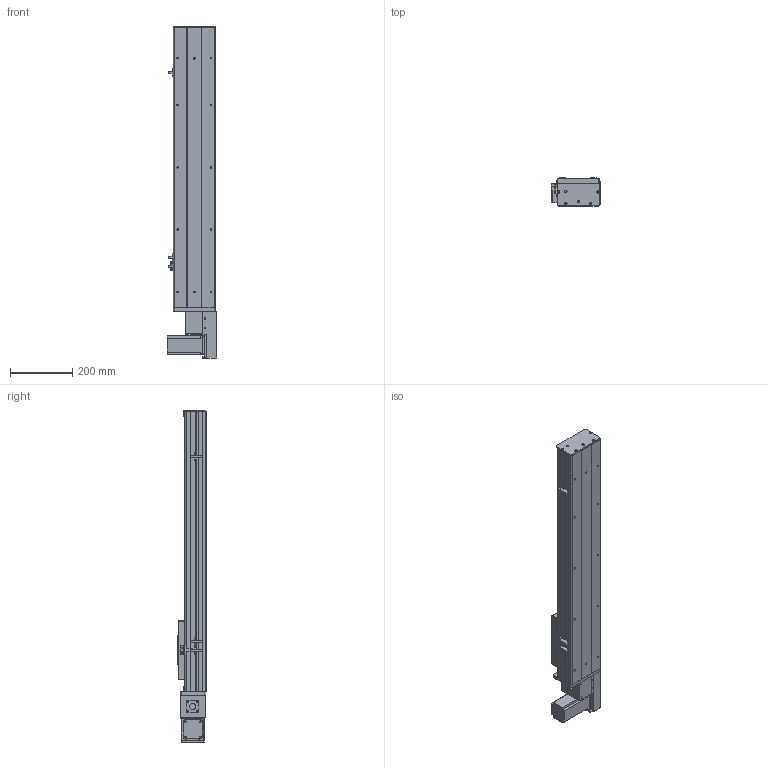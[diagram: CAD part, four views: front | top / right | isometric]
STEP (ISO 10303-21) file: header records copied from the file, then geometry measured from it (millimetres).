
FILE_DESCRIPTION (( 'STEP AP203' ), '1' );
FILE_NAME ('Y135CB-D90-S600-BL-P400W.STEP', '2020-02-17T08:30:18', ( '微软用户' ), ( '微软中国' ), 'SwSTEP 2.0', 'SolidWorks 2017', '' );
FILE_SCHEMA (( 'CONFIG_CONTROL_DESIGN' ));
Length unit declared in the file: millimetre
Products named in the file (18): 5CB --掛极耜裔啣-; 35CB---喘謫眊楊擘啣; C-詩湍揤踡え-陔; Y10B--々湍喘謫眊--666; 135CB--詩湍-CE; Y10B-耜蚾蟀諉啣----; Y100-135俋离換覜ん--; Y俋欶BR----; Y135C-陔俋离換覜結え-; 0B-埴倛裔啣; 5C--俋欶; 0B-源倛裔啣; C-雄赽釱--; 0B-萇儂楊擘啣; Y135CB-耜裔; Y135CB-D90-S600-BL-P400W; san松下电机400不带刹车----; 135CB---遴掛极.-
Assembly tree (21 placements, depth 2):
  Y135CB-D90-S600-BL-P400W
    Y135CB-耜裔
    135CB---遴掛极.-
    35CB---喘謫眊楊擘啣
    Y10B--々湍喘謫眊--666
    Y10B-耜蚾蟀諉啣----
    Y俋欶BR----
    0B-埴倛裔啣
    0B-源倛裔啣
    0B-萇儂楊擘啣
    san松下电机400不带刹车----
    5CB --掛极耜裔啣-  x2
    C-詩湍揤踡え-陔  x2
    135CB--詩湍-CE
    Y100-135俋离換覜ん--  x3
    Y135C-陔俋离換覜結え-
    5C--俋欶
    C-雄赽釱--
Bounding box: 157.5 x 91 x 1064.5 mm (x, y, z)
Volume: 3348537.8 mm3; surface area: 1300316.6 mm2
Topology: 21 solids, 21 shells, 937 faces, 2491 edges, 1650 vertices
Faces by surface type: cylinder 463, plane 458, cone 16
Entity records: 28937 total; most frequent: DIRECTION 4803, CARTESIAN_POINT 4724, ORIENTED_EDGE 4458, EDGE_CURVE 2229, AXIS2_PLACEMENT_3D 1745, VERTEX_POINT 1478, LINE 1313, VECTOR 1313
